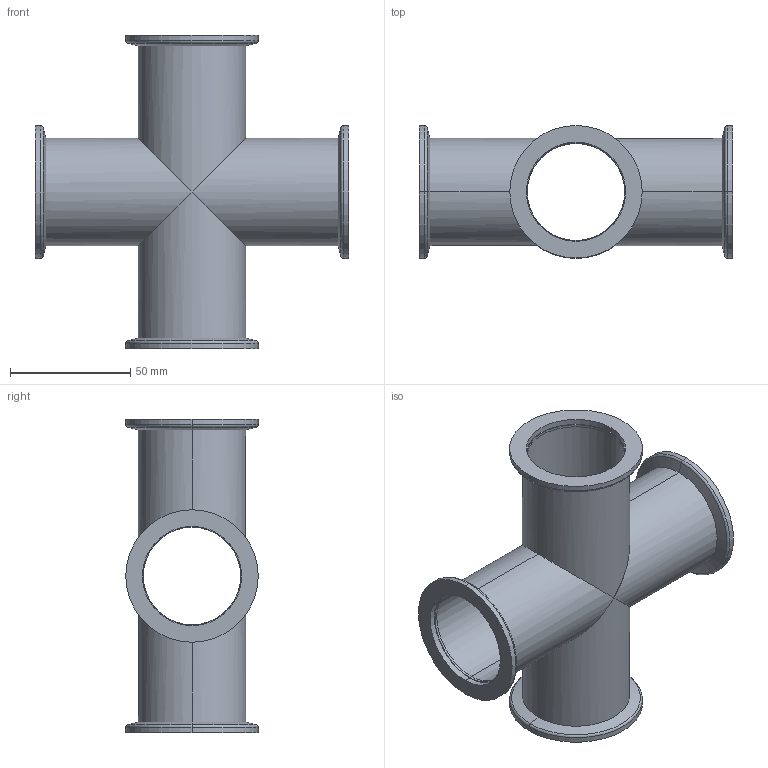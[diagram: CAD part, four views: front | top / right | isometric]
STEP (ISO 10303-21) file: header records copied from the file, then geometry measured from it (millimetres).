
FILE_DESCRIPTION (( 'STEP AP214' ), '1' );
FILE_NAME ('W3KS40.STEP', '2020-08-20T12:27:28', ( '' ), ( '' ), 'SwSTEP 2.0', 'SolidWorks 2020', '' );
FILE_SCHEMA (( 'AUTOMOTIVE_DESIGN' ));
Length unit declared in the file: millimetre
Products named in the file (1): W3KS40
Bounding box: 130 x 55 x 130 mm (x, y, z)
Volume: 66515.7 mm3; surface area: 66830.2 mm2
Topology: 8 solids, 8 shells, 88 faces, 192 edges, 120 vertices
Faces by surface type: cylinder 48, plane 24, torus 8, cone 8
Entity records: 2549 total; most frequent: CARTESIAN_POINT 497, DIRECTION 434, ORIENTED_EDGE 384, EDGE_CURVE 192, AXIS2_PLACEMENT_3D 185, VERTEX_POINT 120, EDGE_LOOP 104, CIRCLE 96
